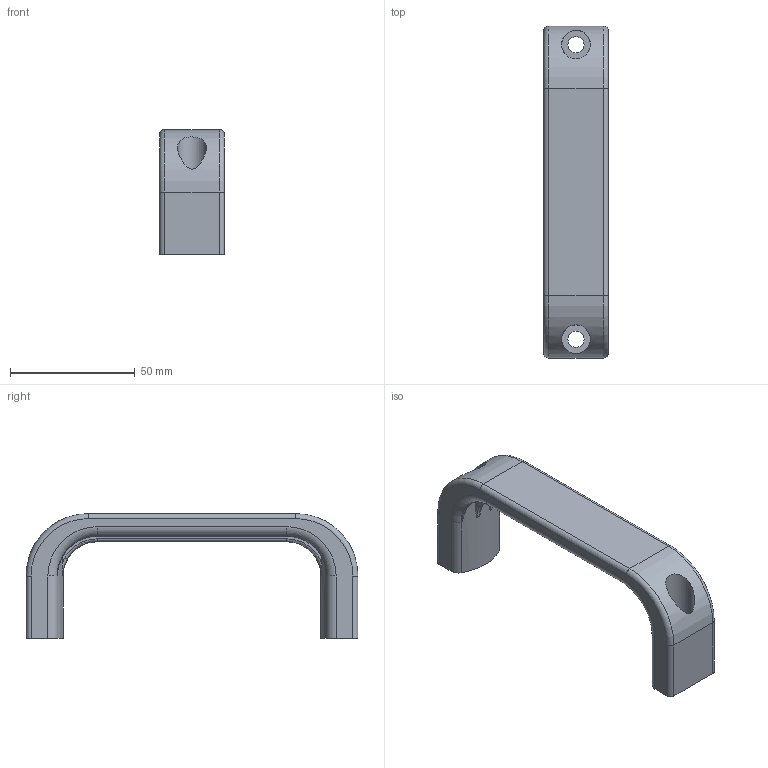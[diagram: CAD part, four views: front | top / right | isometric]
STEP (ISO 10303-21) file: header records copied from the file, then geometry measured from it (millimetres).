
FILE_DESCRIPTION (( 'STEP AP214' ), '1' );
FILE_NAME ('092308.STEP', '2013-10-01T10:13:43', ( '' ), ( '' ), 'SwSTEP 2.0', 'SolidWorks 2012', '' );
FILE_SCHEMA (( 'AUTOMOTIVE_DESIGN' ));
Length unit declared in the file: millimetre
Products named in the file (1): 092308
Bounding box: 26 x 133 x 50 mm (x, y, z)
Volume: 39219.1 mm3; surface area: 23225.2 mm2
Topology: 1 solids, 1 shells, 132 faces, 338 edges, 214 vertices
Faces by surface type: cylinder 64, torus 34, plane 34
Entity records: 4326 total; most frequent: CARTESIAN_POINT 965, DIRECTION 760, ORIENTED_EDGE 676, EDGE_CURVE 338, AXIS2_PLACEMENT_3D 311, VERTEX_POINT 214, CIRCLE 178, EDGE_LOOP 142
